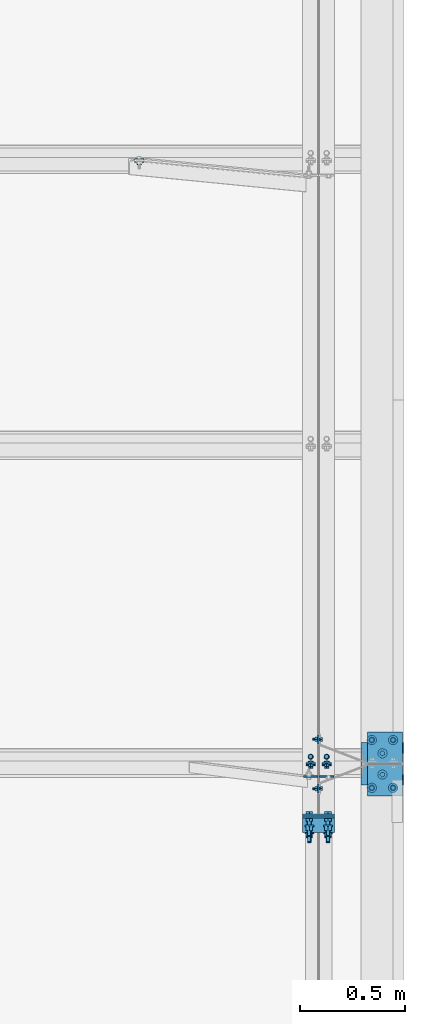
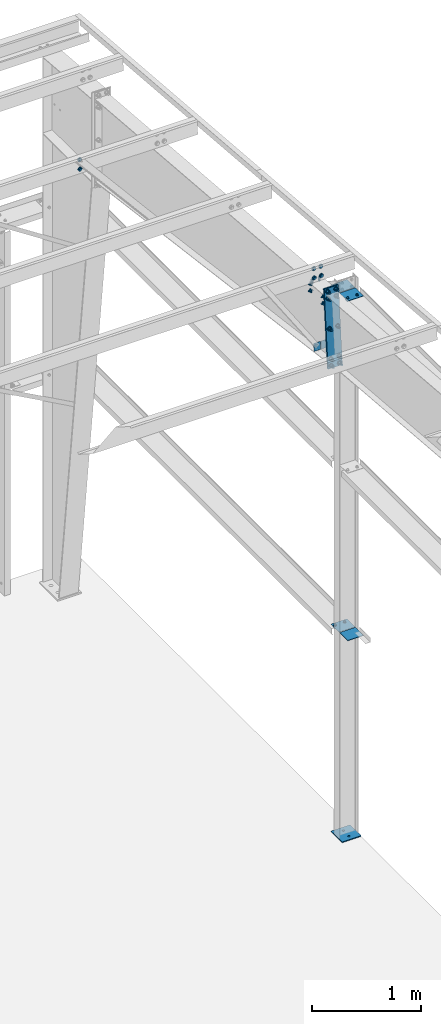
# One storey, part 116 of 185: 12 mechanical fasteners, 9 discrete accessories, 7 elements without a shape of their own.
"""IFC2X3 building model written with IfcOpenShell, lengths in millimetres."""

from ifc_helpers import new_model, si_unit, frame, frame_2d, origin_with_axes, origin_2d_with_axis, place, context, subcontext, project, spatial, polyline, circle_curve, parameter, trimmed, segment, composite_curve, rectangle, circle, outline, extrude, source, transform, mapped, material, type_object, element, aggregate, save


model = new_model("IFC2X3")

# Units and contexts
model_context = context("Model", 3, precision=1e-05, world=origin_with_axes())
body_context = subcontext(model_context, "Body", "Model", "MODEL_VIEW")
ifc_project = project(units=[si_unit("LENGTHUNIT", "METRE", prefix="MILLI"), si_unit("AREAUNIT", "SQUARE_METRE"), si_unit("VOLUMEUNIT", "CUBIC_METRE"), si_unit("MASSUNIT", "GRAM", prefix="KILO"), si_unit("TIMEUNIT", "SECOND"), si_unit("PLANEANGLEUNIT", "RADIAN"), si_unit("SOLIDANGLEUNIT", "STERADIAN"), si_unit("THERMODYNAMICTEMPERATUREUNIT", "DEGREE_CELSIUS"), si_unit("LUMINOUSINTENSITYUNIT", "LUMEN")], contexts=[model_context])

# Site, building, storey
site_placement = place(None, origin_with_axes())
site = spatial("IfcSite", under=ifc_project, at=site_placement, Name="Undefined", CompositionType="ELEMENT")
building_placement = place(site_placement, origin_with_axes())
building = spatial("IfcBuilding", under=site, at=building_placement, Name="Undefined", CompositionType="ELEMENT")
storey_placement = place(building_placement, origin_with_axes())
storey = spatial("IfcBuildingStorey", under=building, at=storey_placement, Name="Undefined", CompositionType="ELEMENT", Elevation=0.0)

# Assembly, discrete accessories
assembly_1_placement = place(storey_placement, origin_with_axes())
assembly_1 = element("IfcElementAssembly", 1, at=assembly_1_placement, inside=storey, Name="Steel Assembly", AssemblyPlace="NOTDEFINED", PredefinedType="RIGID_FRAME")
ifc_material_1 = material(Name="STEEL/55")
discrete_accessory_type_1 = type_object("IfcDiscreteAccessoryType", Name="XP-38")
discrete_accessory_1_placement = place(assembly_1_placement, frame((44868.703125, 26920.902788, 2288.38125), z_axis=(-1.0, 0.0, 0.0), x_axis=(0.0, -1.0, 0.0)))
discrete_accessory_1 = element("IfcDiscreteAccessory", 2, at=discrete_accessory_1_placement, type_object=discrete_accessory_type_1, material=ifc_material_1, Name="XP-38", ObjectType="PL3/16\"X5 7/8\"", context=body_context, shape_type="SweptSolid", body=[
    extrude(rectangle(XDim=4.7625, YDim=168.275, at=origin_2d_with_axis()), frame((149.224999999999, 0.0, 0.0), z_axis=(-1.0, 0.0, 0.0), x_axis=(0.0, -1.0, 0.0)), (0.0, 0.0, 1.0), 149.2),
])
discrete_accessory_2_placement = place(assembly_1_placement, frame((44868.703125, 26927.097212, 2288.38125), z_axis=(-1.0, 0.0, 0.0), x_axis=(0.0, 1.0, 0.0)))
discrete_accessory_2 = element("IfcDiscreteAccessory", 3, at=discrete_accessory_2_placement, type_object=discrete_accessory_type_1, material=ifc_material_1, Name="XP-38", ObjectType="PL3/16\"X5 7/8\"", context=body_context, shape_type="SweptSolid", body=[
    extrude(rectangle(XDim=4.7625, YDim=168.275, at=origin_2d_with_axis()), frame((149.224999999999, 0.0, 0.0), z_axis=(-1.0, 0.0, 0.0), x_axis=(0.0, -1.0, 0.0)), (0.0, 0.0, 1.0), 149.2),
])
discrete_accessory_3_placement = place(assembly_1_placement, frame((44868.703125, 26920.902788, 6098.38125), z_axis=(-1.0, 0.0, 0.0), x_axis=(0.0, -1.0, 0.0)))
discrete_accessory_3 = element("IfcDiscreteAccessory", 4, at=discrete_accessory_3_placement, type_object=discrete_accessory_type_1, material=ifc_material_1, Name="XP-38", ObjectType="PL3/16\"X5 7/8\"", context=body_context, shape_type="SweptSolid", body=[
    extrude(rectangle(XDim=4.7625, YDim=168.275, at=origin_2d_with_axis()), frame((149.224999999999, 0.0, 0.0), z_axis=(-1.0, 0.0, 0.0), x_axis=(0.0, -1.0, 0.0)), (0.0, 0.0, 1.0), 149.2),
])
discrete_accessory_4_placement = place(assembly_1_placement, frame((44868.703125, 26927.097212, 6098.38125), z_axis=(-1.0, 0.0, 0.0), x_axis=(0.0, 1.0, 0.0)))
discrete_accessory_4 = element("IfcDiscreteAccessory", 5, at=discrete_accessory_4_placement, type_object=discrete_accessory_type_1, material=ifc_material_1, Name="XP-38", ObjectType="PL3/16\"X5 7/8\"", context=body_context, shape_type="SweptSolid", body=[
    extrude(rectangle(XDim=4.7625, YDim=168.275, at=origin_2d_with_axis()), frame((149.224999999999, 0.0, 0.0), z_axis=(-1.0, 0.0, 0.0), x_axis=(0.0, -1.0, 0.0)), (0.0, 0.0, 1.0), 149.2),
])

# Assembly, mechanical fastener
assembly_2_placement = place(storey_placement, origin_with_axes())
assembly_2 = element("IfcElementAssembly", 6, at=assembly_2_placement, inside=storey, Name="Steel Assembly", AssemblyPlace="NOTDEFINED", PredefinedType="RIGID_FRAME")
ifc_material_2 = material(Name="Undefined")
discrete_accessory_type_2 = type_object("IfcDiscreteAccessoryType", Name="Bolt assembly")
shared_shape_1 = source(origin_with_axes(), body_context, "Body", "SweptSolid", [
    extrude(circle(Radius=7.14374971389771, at=origin_2d_with_axis()), frame((0.0, -1.59000001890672, 0.0), z_axis=(0.0, 1.0, 0.0), x_axis=(1.0, 0.0, 0.0)), (0.0, 0.0, 1.0), 3.3),
    extrude(circle(Radius=13.4937496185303, at=origin_2d_with_axis()), frame((0.0, -5.5587500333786, 0.0), z_axis=(0.0, 1.0, 0.0), x_axis=(1.0, 0.0, 0.0)), (0.0, 0.0, 1.0), 4.0),
    extrude(circle(Radius=22.2250003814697, at=origin_2d_with_axis()), frame((0.0, 1.5900000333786, 0.0), z_axis=(0.0, 1.0, 0.0), x_axis=(1.0, 0.0, 0.0)), (0.0, 0.0, 1.0), 7.9),
    extrude(outline(polyline([(12.8316099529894, 0.0), (6.4158049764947, 11.1125001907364), (-6.4158049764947, 11.1125001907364), (-12.8316099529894, 0.0), (-6.4158049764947, -11.1125001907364), (6.4158049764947, -11.1125001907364), (12.8316099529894, 0.0)])), frame((0.0, 9.5275000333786, 0.0), z_axis=(0.0, 1.0, 0.0), x_axis=(1.0, 0.0, 0.0)), (0.0, 0.0, 1.0), 12.3),
])
mechanical_fastener_1_placement = place(assembly_2_placement, frame((43694.35, 29818.2760586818, 6227.16757843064), z_axis=(-1.0, 0.0, 0.0), x_axis=(0.0, -0.0830454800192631, -0.996545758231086)))
mechanical_fastener_1 = element("IfcMechanicalFastener", 7, at=mechanical_fastener_1_placement, type_object=discrete_accessory_type_2, material=ifc_material_2, Name="Bolt assembly", NominalDiameter=12.6999998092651, NominalLength=38.0999984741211, context=body_context, shape_type="MappedRepresentation", body=[
    mapped(shared_shape_1, transform((0.0, 0.0, 0.0))),
    mapped(shared_shape_1, transform((101.599998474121, 0.0, 0.0))),
])
aggregate(assembly_2, [mechanical_fastener_1])

# Assembly, mechanical fasteners
assembly_3_placement = place(storey_placement, origin_with_axes())
assembly_3 = element("IfcElementAssembly", 8, at=assembly_3_placement, inside=storey, Name="Steel Assembly", AssemblyPlace="NOTDEFINED", PredefinedType="RIGID_FRAME")
mechanical_fastener_2_placement = place(assembly_3_placement, frame((44513.5, 26932.678161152, 6467.63407038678), z_axis=(-1.0, 0.0, 0.0), x_axis=(0.0, -0.0830454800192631, -0.996545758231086)))
mechanical_fastener_2 = element("IfcMechanicalFastener", 9, at=mechanical_fastener_2_placement, type_object=discrete_accessory_type_2, material=ifc_material_2, Name="Bolt assembly", NominalDiameter=12.6999998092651, NominalLength=38.0999984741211, context=body_context, shape_type="MappedRepresentation", body=[
    mapped(shared_shape_1, transform((0.0, 0.0, 0.0))),
    mapped(shared_shape_1, transform((101.599998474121, 0.0, 0.0))),
])
mechanical_fastener_3_placement = place(assembly_3_placement, frame((44589.7, 26932.678161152, 6467.63407038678), z_axis=(-1.0, 0.0, 0.0), x_axis=(0.0, -0.0830454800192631, -0.996545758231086)))
mechanical_fastener_3 = element("IfcMechanicalFastener", 10, at=mechanical_fastener_3_placement, type_object=discrete_accessory_type_2, material=ifc_material_2, Name="Bolt assembly", NominalDiameter=12.6999998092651, NominalLength=38.0999984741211, context=body_context, shape_type="MappedRepresentation", body=[
    mapped(shared_shape_1, transform((0.0, 0.0, 0.0))),
    mapped(shared_shape_1, transform((101.599998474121, 0.0, 0.0))),
])

# Mechanical fastener
shared_shape_2 = source(origin_with_axes(), body_context, "Body", "SweptSolid", [
    extrude(circle(Radius=7.14374971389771, at=origin_2d_with_axis()), frame((0.0, -1.69000003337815, 0.0), z_axis=(0.0, 1.0, 0.0), x_axis=(1.0, 0.0, 0.0)), (0.0, 0.0, 1.0), 3.3),
    extrude(outline(composite_curve([segment(polyline([(-5.953125, 7.14374971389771), (5.953125, 7.14374971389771)]), True, "CONTINUOUS"), segment(trimmed(circle_curve(frame_2d((5.953125, 0.0), x_axis=(0.0, 1.0)), 7.1), [parameter(0.0)], [parameter(3.14159265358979)], False, "PARAMETER"), True, "CONTINUOUS"), segment(polyline([(5.953125, -7.14374971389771), (-5.953125, -7.14374971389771)]), True, "CONTINUOUS"), segment(trimmed(circle_curve(frame_2d((-5.953125, 0.0), x_axis=(0.0, -1.0)), 7.1), [parameter(0.0)], [parameter(3.14159265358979)], False, "PARAMETER"), True, "DISCONTINUOUS")], self_intersect=False)), frame((0.0, -4.66250000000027, 0.0), z_axis=(0.0, 1.0, 0.0), x_axis=(1.0, 0.0, 0.0)), (0.0, 0.0, 1.0), 4.8),
    extrude(outline(polyline([(10.9985221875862, 0.0), (5.4992610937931, 9.52499961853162), (-5.4992610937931, 9.52499961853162), (-10.9985221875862, 0.0), (-5.4992610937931, -9.52499961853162), (5.4992610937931, -9.52499961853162), (10.9985221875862, 0.0)])), frame((0.0, -18.2562496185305, 0.0), z_axis=(0.0, 1.0, 0.0), x_axis=(1.0, 0.0, 0.0)), (0.0, 0.0, 1.0), 9.5),
    extrude(circle(Radius=6.34999990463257, at=origin_2d_with_axis()), frame((0.0, -8.73125000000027, 0.0), z_axis=(0.0, 1.0, 0.0), x_axis=(1.0, 0.0, 0.0)), (0.0, 0.0, 1.0), 38.1),
    extrude(circle(Radius=13.4937496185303, at=origin_2d_with_axis()), frame((0.0, -8.73125000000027, 0.0), z_axis=(0.0, 1.0, 0.0), x_axis=(1.0, 0.0, 0.0)), (0.0, 0.0, 1.0), 4.0),
    extrude(circle(Radius=22.2250003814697, at=origin_2d_with_axis()), frame((0.0, 1.5900000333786, 0.0), z_axis=(0.0, 1.0, 0.0), x_axis=(1.0, 0.0, 0.0)), (0.0, 0.0, 1.0), 7.9),
    extrude(outline(polyline([(12.8316099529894, 0.0), (6.4158049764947, 11.1125001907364), (-6.4158049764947, 11.1125001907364), (-12.8316099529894, 0.0), (-6.4158049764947, -11.1125001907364), (6.4158049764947, -11.1125001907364), (12.8316099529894, 0.0)])), frame((0.0, 9.5275000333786, 0.0), z_axis=(0.0, 1.0, 0.0), x_axis=(1.0, 0.0, 0.0)), (0.0, 0.0, 1.0), 12.3),
])
mechanical_fastener_4_placement = place(assembly_1_placement, frame((44907.2, 27038.3, 2286.0), z_axis=(0.0, -1.0, 0.0), x_axis=(-1.0, 0.0, 0.0)))
mechanical_fastener_4 = element("IfcMechanicalFastener", 11, at=mechanical_fastener_4_placement, type_object=discrete_accessory_type_2, material=ifc_material_2, Name="Bolt assembly", NominalDiameter=12.6999998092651, NominalLength=38.0999984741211, context=body_context, shape_type="MappedRepresentation", body=[
    mapped(shared_shape_2, transform((0.0, 0.0, 0.0))),
    mapped(shared_shape_2, transform((101.599998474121, 0.0, 0.0))),
])

# Assembly, mechanical fastener
assembly_4_placement = place(storey_placement, origin_with_axes())
assembly_4 = element("IfcElementAssembly", 12, at=assembly_4_placement, inside=storey, Name="Steel Assembly", AssemblyPlace="NOTDEFINED", PredefinedType="RIGID_FRAME")
shared_shape_3 = source(origin_with_axes(), body_context, "Body", "SweptSolid", [
    extrude(circle(Radius=7.14499998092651, at=origin_2d_with_axis()), frame((0.0, 0.0, 0.0), z_axis=(0.0, 1.0, 0.0), x_axis=(1.0, 0.0, 0.0)), (0.0, 0.0, 1.0), 6.5),
    extrude(outline(polyline([(10.9985221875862, 0.0), (5.4992610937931, 9.52499961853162), (-5.4992610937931, 9.52499961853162), (-10.9985221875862, 0.0), (-5.4992610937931, -9.52499961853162), (5.4992610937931, -9.52499961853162), (10.9985221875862, 0.0)])), frame((0.0, -9.52499961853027, 0.0), z_axis=(0.0, 1.0, 0.0), x_axis=(1.0, 0.0, 0.0)), (0.0, 0.0, 1.0), 9.5),
    extrude(circle(Radius=6.34999990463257, at=origin_2d_with_axis()), frame((0.0, 0.0, 0.0), z_axis=(0.0, 1.0, 0.0), x_axis=(1.0, 0.0, 0.0)), (0.0, 0.0, 1.0), 38.1),
    extrude(circle(Radius=22.2250003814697, at=origin_2d_with_axis()), frame((0.0, 6.35000000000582, 0.0), z_axis=(0.0, 1.0, 0.0), x_axis=(1.0, 0.0, 0.0)), (0.0, 0.0, 1.0), 7.9),
    extrude(outline(polyline([(12.8316099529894, 0.0), (6.4158049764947, 11.1125001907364), (-6.4158049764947, 11.1125001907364), (-12.8316099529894, 0.0), (-6.4158049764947, -11.1125001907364), (6.4158049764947, -11.1125001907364), (12.8316099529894, 0.0)])), frame((0.0, 14.2875000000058, 0.0), z_axis=(0.0, 1.0, 0.0), x_axis=(1.0, 0.0, 0.0)), (0.0, 0.0, 1.0), 12.3),
])
mechanical_fastener_5_placement = place(assembly_4_placement, frame((44560.3002673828, 26806.2059058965, 6137.41738311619), z_axis=(0.0, -1.0, 0.0), x_axis=(0.0, 0.0, 1.0)))
mechanical_fastener_5 = element("IfcMechanicalFastener", 13, at=mechanical_fastener_5_placement, type_object=discrete_accessory_type_2, material=ifc_material_2, Name="Bolt assembly", NominalDiameter=12.6999998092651, NominalLength=38.0999984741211, context=body_context, shape_type="MappedRepresentation", body=[
    mapped(shared_shape_3, transform((0.0, 0.0, 0.0))),
    mapped(shared_shape_3, transform((76.1999969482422, 0.0, 0.0))),
])
aggregate(assembly_4, [mechanical_fastener_5])

assembly_5_placement = place(storey_placement, origin_with_axes())
assembly_5 = element("IfcElementAssembly", 14, at=assembly_5_placement, inside=storey, Name="Steel Assembly", AssemblyPlace="NOTDEFINED", PredefinedType="RIGID_FRAME")
mechanical_fastener_6_placement = place(assembly_5_placement, frame((44560.3002673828, 27041.3972181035, 6137.41738311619), z_axis=(0.0, -1.0, 0.0), x_axis=(0.0, 0.0, 1.0)))
mechanical_fastener_6 = element("IfcMechanicalFastener", 15, at=mechanical_fastener_6_placement, type_object=discrete_accessory_type_2, material=ifc_material_2, Name="Bolt assembly", NominalDiameter=12.6999998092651, NominalLength=38.0999984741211, context=body_context, shape_type="MappedRepresentation", body=[
    mapped(shared_shape_3, transform((0.0, 0.0, 0.0))),
    mapped(shared_shape_3, transform((76.1999969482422, 0.0, 0.0))),
])
aggregate(assembly_5, [mechanical_fastener_6])

# Mechanical fastener
shared_shape_4 = source(origin_with_axes(), body_context, "Body", "SweptSolid", [
    extrude(circle(Radius=11.1124992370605, at=origin_2d_with_axis()), frame((0.0, 0.0, 0.0), z_axis=(0.0, 1.0, 0.0), x_axis=(1.0, 0.0, 0.0)), (0.0, 0.0, 1.0), 9.6),
    extrude(circle(Radius=22.2250003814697, at=origin_2d_with_axis()), frame((0.0, 9.52499999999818, 0.0), z_axis=(0.0, 1.0, 0.0), x_axis=(1.0, 0.0, 0.0)), (0.0, 0.0, 1.0), 7.9),
    extrude(outline(polyline([(18.3308710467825, 0.0), (9.16543552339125, 15.8750000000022), (-9.16543552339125, 15.8750000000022), (-18.3308710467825, 0.0), (-9.16543552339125, -15.8750000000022), (9.16543552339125, -15.8750000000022), (18.3308710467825, 0.0)])), frame((0.0, 17.4624999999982, 0.0), z_axis=(0.0, 1.0, 0.0), x_axis=(1.0, 0.0, 0.0)), (0.0, 0.0, 1.0), 19.0),
])
mechanical_fastener_7_placement = place(assembly_1_placement, frame((44856.4, 26873.1999984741, 9.52499999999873), z_axis=(-1.0, 0.0, 0.0), x_axis=(0.0, 1.0, 0.0)))
mechanical_fastener_7 = element("IfcMechanicalFastener", 16, at=mechanical_fastener_7_placement, type_object=discrete_accessory_type_2, material=ifc_material_2, Name="Bolt assembly", NominalDiameter=19.0499992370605, NominalLength=9.52499961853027, context=body_context, shape_type="MappedRepresentation", body=[
    mapped(shared_shape_4, transform((0.0, 0.0, 0.0))),
    mapped(shared_shape_4, transform((101.599998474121, 0.0, 0.0))),
])

# Discrete accessory
discrete_accessory_type_3 = type_object("IfcDiscreteAccessoryType", Name="Base Plate")
discrete_accessory_5_placement = place(assembly_1_placement, frame((44958.0, 26924.0, 4.76250000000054), z_axis=(0.0, -1.0, 0.0), x_axis=(-1.0, 0.0, 0.0)))
discrete_accessory_5 = element("IfcDiscreteAccessory", 17, at=discrete_accessory_5_placement, type_object=discrete_accessory_type_3, material=ifc_material_1, Name="Base Plate", ObjectType="FL3/8\"X8\"", context=body_context, shape_type="SweptSolid", body=[
    extrude(rectangle(XDim=9.525, YDim=203.2, at=origin_2d_with_axis()), frame((203.200000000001, 0.0, 0.0), z_axis=(-1.0, 0.0, 0.0), x_axis=(0.0, -1.0, 0.0)), (0.0, 0.0, 1.0), 203.2),
])

# Assembly, discrete accessories, mechanical fasteners
assembly_6_placement = place(storey_placement, origin_with_axes())
assembly_6 = element("IfcElementAssembly", 18, at=assembly_6_placement, inside=storey, Name="Steel Assembly", AssemblyPlace="NOTDEFINED", PredefinedType="RIGID_FRAME")
discrete_accessory_type_4 = type_object("IfcDiscreteAccessoryType", Name="FLANGE BRACE FLIP")
discrete_accessory_6_placement = place(assembly_6_placement, frame((44549.21875, 26864.7142460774, 5631.5000458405), z_axis=(0.0, 0.0830454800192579, 0.996545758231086), x_axis=(-1.0, 0.0, 0.0)))
discrete_accessory_6 = element("IfcDiscreteAccessory", 19, at=discrete_accessory_6_placement, type_object=discrete_accessory_type_4, material=ifc_material_1, Name="FLANGE BRACE FLIP", ObjectType="PL1/8\"X2 3/4\"", context=body_context, shape_type="SweptSolid", body=[
    extrude(rectangle(XDim=3.416, YDim=85.725, at=origin_2d_with_axis()), frame((69.8499999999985, 0.0, 0.0), z_axis=(-1.0, 0.0, 0.0), x_axis=(0.0, -1.0, 0.0)), (0.0, 0.0, 1.0), 69.9),
])
discrete_accessory_7_placement = place(assembly_6_placement, frame((44553.98125, 26864.7142460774, 5631.5000458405), z_axis=(0.0, 0.0830454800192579, 0.996545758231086), x_axis=(1.0, 0.0, 0.0)))
discrete_accessory_7 = element("IfcDiscreteAccessory", 20, at=discrete_accessory_7_placement, type_object=discrete_accessory_type_4, material=ifc_material_1, Name="FLANGE BRACE FLIP", ObjectType="PL1/8\"X2 3/4\"", context=body_context, shape_type="SweptSolid", body=[
    extrude(rectangle(XDim=3.416, YDim=85.725, at=origin_2d_with_axis()), frame((69.8499999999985, 0.0, 0.0), z_axis=(-1.0, 0.0, 0.0), x_axis=(0.0, -1.0, 0.0)), (0.0, 0.0, 1.0), 69.8),
])
shared_shape_5 = source(origin_with_axes(), body_context, "Body", "SweptSolid", [
    extrude(circle(Radius=10.3187494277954, at=origin_2d_with_axis()), frame((0.0, -0.1, 0.0), z_axis=(0.0, 1.0, 0.0), x_axis=(1.0, 0.0, 0.0)), (0.0, 0.0, 1.0), 9.6),
    extrude(circle(Radius=10.3187494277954, at=origin_2d_with_axis()), frame((0.0, -9.55200000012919, 0.0), z_axis=(0.0, 1.0, 0.0), x_axis=(1.0, 0.0, 0.0)), (0.0, 0.0, 1.0), 9.7),
    extrude(outline(polyline([(18.3308710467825, 0.0), (9.16543552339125, 15.8750000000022), (-9.16543552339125, 15.8750000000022), (-18.3308710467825, 0.0), (-9.16543552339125, -15.8750000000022), (9.16543552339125, -15.8750000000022), (18.3308710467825, 0.0)])), frame((0.0, -21.5582500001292, 0.0), z_axis=(0.0, 1.0, 0.0), x_axis=(1.0, 0.0, 0.0)), (0.0, 0.0, 1.0), 11.9),
    extrude(circle(Radius=9.52499961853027, at=origin_2d_with_axis()), frame((0.0, -9.65200000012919, 0.0), z_axis=(0.0, 1.0, 0.0), x_axis=(1.0, 0.0, 0.0)), (0.0, 0.0, 1.0), 69.8),
    extrude(circle(Radius=22.2250003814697, at=origin_2d_with_axis()), frame((0.0, 9.52499999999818, 0.0), z_axis=(0.0, 1.0, 0.0), x_axis=(1.0, 0.0, 0.0)), (0.0, 0.0, 1.0), 7.9),
    extrude(outline(polyline([(18.3308710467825, 0.0), (9.16543552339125, 15.8750000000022), (-9.16543552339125, 15.8750000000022), (-18.3308710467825, 0.0), (-9.16543552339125, -15.8750000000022), (9.16543552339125, -15.8750000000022), (18.3308710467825, 0.0)])), frame((0.0, 17.4624999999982, 0.0), z_axis=(0.0, 1.0, 0.0), x_axis=(1.0, 0.0, 0.0)), (0.0, 0.0, 1.0), 19.0),
])
mechanical_fastener_8_placement = place(assembly_6_placement, frame((44551.6, 26640.4690271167, 5975.85197822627), z_axis=(-1.0, 0.0, 0.0), x_axis=(0.0, -0.0830454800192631, -0.996545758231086)))
mechanical_fastener_8 = element("IfcMechanicalFastener", 21, at=mechanical_fastener_8_placement, type_object=discrete_accessory_type_2, material=ifc_material_2, Name="Bolt assembly", NominalDiameter=19.0499992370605, NominalLength=69.8499984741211, context=body_context, shape_type="MappedRepresentation", body=[
    mapped(shared_shape_5, transform((0.0, 0.0, -44.4500007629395))),
    mapped(shared_shape_5, transform((0.0, 0.0, 44.4500007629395))),
])
mechanical_fastener_9_placement = place(assembly_6_placement, frame((44551.6, 26607.5103524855, 5580.34788344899), z_axis=(1.0, 0.0, 0.0), x_axis=(0.0, 0.0830454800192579, 0.996545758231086)))
mechanical_fastener_9 = element("IfcMechanicalFastener", 22, at=mechanical_fastener_9_placement, type_object=discrete_accessory_type_2, material=ifc_material_2, Name="Bolt assembly", NominalDiameter=19.0499992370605, NominalLength=69.8499984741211, context=body_context, shape_type="MappedRepresentation", body=[
    mapped(shared_shape_5, transform((0.0, 0.0, -44.4500007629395))),
    mapped(shared_shape_5, transform((73.1520004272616, 5.82076609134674e-11, -44.4500007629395))),
    mapped(shared_shape_5, transform((0.0, 0.0, 44.4500007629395))),
    mapped(shared_shape_5, transform((73.1520004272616, 5.82076609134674e-11, 44.4500007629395))),
])
mechanical_fastener_10_placement = place(assembly_6_placement, frame((44551.6, 26673.4277019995, 6371.35607602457), z_axis=(-1.0, 0.0, 0.0), x_axis=(0.0, -0.0830454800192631, -0.996545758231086)))
mechanical_fastener_10 = element("IfcMechanicalFastener", 23, at=mechanical_fastener_10_placement, type_object=discrete_accessory_type_2, material=ifc_material_2, Name="Bolt assembly", NominalDiameter=19.0499992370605, NominalLength=69.8499984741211, context=body_context, shape_type="MappedRepresentation", body=[
    mapped(shared_shape_5, transform((0.0, 0.0, -44.4500007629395))),
    mapped(shared_shape_5, transform((73.1520004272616, 5.82076609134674e-11, -44.4500007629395))),
    mapped(shared_shape_5, transform((0.0, 0.0, 44.4500007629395))),
    mapped(shared_shape_5, transform((73.1520004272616, 5.82076609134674e-11, 44.4500007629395))),
])

# Mechanical fastener
shared_shape_6 = source(origin_with_axes(), body_context, "Body", "SweptSolid", [
    extrude(circle(Radius=7.14374971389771, at=origin_2d_with_axis()), frame((0.0, -1.69000003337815, 0.0), z_axis=(0.0, 1.0, 0.0), x_axis=(1.0, 0.0, 0.0)), (0.0, 0.0, 1.0), 3.3),
    extrude(outline(composite_curve([segment(polyline([(-5.953125, 7.14374971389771), (5.953125, 7.14374971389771)]), True, "CONTINUOUS"), segment(trimmed(circle_curve(frame_2d((5.953125, 0.0), x_axis=(0.0, 1.0)), 7.1), [parameter(0.0)], [parameter(3.14159265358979)], False, "PARAMETER"), True, "CONTINUOUS"), segment(polyline([(5.953125, -7.14374971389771), (-5.953125, -7.14374971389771)]), True, "CONTINUOUS"), segment(trimmed(circle_curve(frame_2d((-5.953125, 0.0), x_axis=(0.0, -1.0)), 7.1), [parameter(0.0)], [parameter(3.14159265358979)], False, "PARAMETER"), True, "DISCONTINUOUS")], self_intersect=False)), frame((0.0, -4.66250000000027, 0.0), z_axis=(0.0, 1.0, 0.0), x_axis=(1.0, 0.0, 0.0)), (0.0, 0.0, 1.0), 4.8),
    extrude(outline(polyline([(10.9985221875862, 0.0), (5.4992610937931, 9.52499961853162), (-5.4992610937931, 9.52499961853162), (-10.9985221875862, 0.0), (-5.4992610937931, -9.52499961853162), (5.4992610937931, -9.52499961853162), (10.9985221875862, 0.0)])), frame((0.0, -18.2562496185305, 0.0), z_axis=(0.0, 1.0, 0.0), x_axis=(1.0, 0.0, 0.0)), (0.0, 0.0, 1.0), 9.5),
    extrude(circle(Radius=6.34999990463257, at=origin_2d_with_axis()), frame((0.0, -8.73125000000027, 0.0), z_axis=(0.0, 1.0, 0.0), x_axis=(1.0, 0.0, 0.0)), (0.0, 0.0, 1.0), 38.1),
    extrude(circle(Radius=13.4937496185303, at=origin_2d_with_axis()), frame((0.0, -8.73125000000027, 0.0), z_axis=(0.0, 1.0, 0.0), x_axis=(1.0, 0.0, 0.0)), (0.0, 0.0, 1.0), 4.0),
    extrude(circle(Radius=22.2250003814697, at=origin_2d_with_axis()), frame((0.0, 1.5900000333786, 0.0), z_axis=(0.0, 1.0, 0.0), x_axis=(1.0, 0.0, 0.0)), (0.0, 0.0, 1.0), 7.9),
    extrude(outline(polyline([(12.8316099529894, 0.0), (6.4158049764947, 11.1125001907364), (-6.4158049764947, 11.1125001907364), (-12.8316099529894, 0.0), (-6.4158049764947, -11.1125001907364), (6.4158049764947, -11.1125001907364), (12.8316099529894, 0.0)])), frame((0.0, 9.5275000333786, 0.0), z_axis=(0.0, 1.0, 0.0), x_axis=(1.0, 0.0, 0.0)), (0.0, 0.0, 1.0), 12.3),
])
mechanical_fastener_11_placement = place(assembly_1_placement, frame((44907.2, 26809.7, 6096.0), z_axis=(0.0, -1.0, 0.0), x_axis=(-1.0, 0.0, 0.0)))
mechanical_fastener_11 = element("IfcMechanicalFastener", 24, at=mechanical_fastener_11_placement, type_object=discrete_accessory_type_2, material=ifc_material_2, Name="Bolt assembly", NominalDiameter=12.6999998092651, NominalLength=38.0999984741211, context=body_context, shape_type="MappedRepresentation", body=[
    mapped(shared_shape_6, transform((0.0, 0.0, 0.0))),
    mapped(shared_shape_6, transform((101.599998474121, 0.0, 0.0))),
])

aggregate(assembly_1, [mechanical_fastener_4, discrete_accessory_1, discrete_accessory_2, mechanical_fastener_7, discrete_accessory_5, mechanical_fastener_11, discrete_accessory_3, discrete_accessory_4])

shared_shape_7 = source(origin_with_axes(), body_context, "Body", "SweptSolid", [
    extrude(circle(Radius=7.14374971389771, at=origin_2d_with_axis()), frame((0.0, -0.1, 0.0), z_axis=(0.0, 1.0, 0.0), x_axis=(1.0, 0.0, 0.0)), (0.0, 0.0, 1.0), 6.5),
    extrude(circle(Radius=7.14374971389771, at=origin_2d_with_axis()), frame((0.0, -3.08000006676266, 0.0), z_axis=(0.0, 1.0, 0.0), x_axis=(1.0, 0.0, 0.0)), (0.0, 0.0, 1.0), 3.2),
    extrude(outline(polyline([(10.9985221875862, 0.0), (5.4992610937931, 9.52499961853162), (-5.4992610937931, 9.52499961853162), (-10.9985221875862, 0.0), (-5.4992610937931, -9.52499961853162), (5.4992610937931, -9.52499961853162), (10.9985221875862, 0.0)])), frame((0.0, -16.6737496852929, 0.0), z_axis=(0.0, 1.0, 0.0), x_axis=(1.0, 0.0, 0.0)), (0.0, 0.0, 1.0), 9.5),
    extrude(circle(Radius=6.34999990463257, at=origin_2d_with_axis()), frame((0.0, -7.14875006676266, 0.0), z_axis=(0.0, 1.0, 0.0), x_axis=(1.0, 0.0, 0.0)), (0.0, 0.0, 1.0), 38.1),
    extrude(circle(Radius=13.4937496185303, at=origin_2d_with_axis()), frame((0.0, -7.14875006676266, 0.0), z_axis=(0.0, 1.0, 0.0), x_axis=(1.0, 0.0, 0.0)), (0.0, 0.0, 1.0), 4.0),
    extrude(outline(polyline([(12.8316099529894, 0.0), (6.4158049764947, 11.1125001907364), (-6.4158049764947, 11.1125001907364), (-12.8316099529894, 0.0), (-6.4158049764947, -11.1125001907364), (6.4158049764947, -11.1125001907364), (12.8316099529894, 0.0)])), frame((0.0, 6.35000000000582, 0.0), z_axis=(0.0, 1.0, 0.0), x_axis=(1.0, 0.0, 0.0)), (0.0, 0.0, 1.0), 12.3),
])
mechanical_fastener_12_placement = place(assembly_3_placement, frame((44551.6, 26957.9904234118, 6312.59646404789), z_axis=(-1.0, 0.0, 0.0), x_axis=(0.0, 0.996545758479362, -0.0830454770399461)))
mechanical_fastener_12 = element("IfcMechanicalFastener", 25, at=mechanical_fastener_12_placement, type_object=discrete_accessory_type_2, material=ifc_material_2, Name="Bolt assembly", NominalDiameter=12.6999998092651, NominalLength=38.0999984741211, context=body_context, shape_type="MappedRepresentation", body=[
    mapped(shared_shape_7, transform((0.0, 0.0, -38.0999984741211))),
    mapped(shared_shape_7, transform((0.0, 0.0, 38.0999984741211))),
])

aggregate(assembly_3, [mechanical_fastener_12, mechanical_fastener_2, mechanical_fastener_3])

# Assembly, discrete accessory
assembly_7_placement = place(storey_placement, origin_with_axes())
assembly_7 = element("IfcElementAssembly", 26, at=assembly_7_placement, inside=storey, Name="Steel Assembly", AssemblyPlace="NOTDEFINED", PredefinedType="RIGID_FRAME")
discrete_accessory_type_5 = type_object("IfcDiscreteAccessoryType", Name="Start Splice Plate")
discrete_accessory_8_placement = place(assembly_7_placement, frame((44551.6, 26671.3183468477, 6403.39191141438), z_axis=(-1.0, 0.0, 0.0), x_axis=(0.0, -0.0830454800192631, -0.996545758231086)))
discrete_accessory_8 = element("IfcDiscreteAccessory", 27, at=discrete_accessory_8_placement, type_object=discrete_accessory_type_5, material=ifc_material_1, Name="Start Splice Plate", ObjectType="FL3/8\"X6\"", context=body_context, shape_type="SweptSolid", body=[
    extrude(rectangle(XDim=9.525, YDim=152.4, at=origin_2d_with_axis()), frame((857.250000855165, 1.18967336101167e-14, 0.0), z_axis=(-1.0, 0.0, 0.0), x_axis=(0.0, -1.0, 0.0)), (0.0, 0.0, 1.0), 857.3),
])
aggregate(assembly_7, [discrete_accessory_8])

# Discrete accessory
discrete_accessory_type_6 = type_object("IfcDiscreteAccessoryType", Name="End Splice Plate")
discrete_accessory_9_placement = place(assembly_6_placement, frame((44551.6, 26680.8737258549, 6402.59562678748), z_axis=(-1.0, 0.0, 0.0), x_axis=(0.0, -0.0830454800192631, -0.996545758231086)))
discrete_accessory_9 = element("IfcDiscreteAccessory", 28, at=discrete_accessory_9_placement, type_object=discrete_accessory_type_6, material=ifc_material_1, Name="End Splice Plate", ObjectType="PL3/8\"X6\"", context=body_context, shape_type="SweptSolid", body=[
    extrude(rectangle(XDim=9.652, YDim=152.4, at=origin_2d_with_axis()), frame((857.250000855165, 1.18967336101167e-14, 0.0), z_axis=(-1.0, 0.0, 0.0), x_axis=(0.0, -1.0, 0.0)), (0.0, 0.0, 1.0), 857.3),
])

aggregate(assembly_6, [mechanical_fastener_8, discrete_accessory_6, discrete_accessory_7, mechanical_fastener_9, mechanical_fastener_10, discrete_accessory_9])

save(model, "model.ifc")
